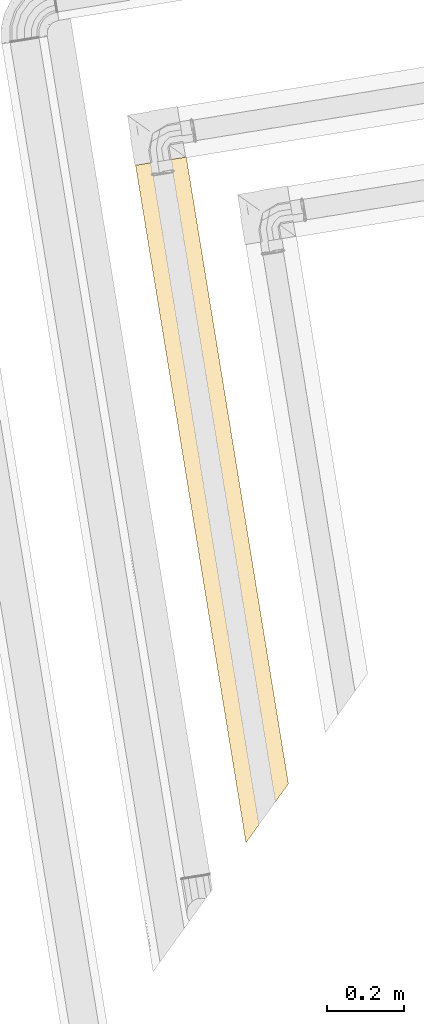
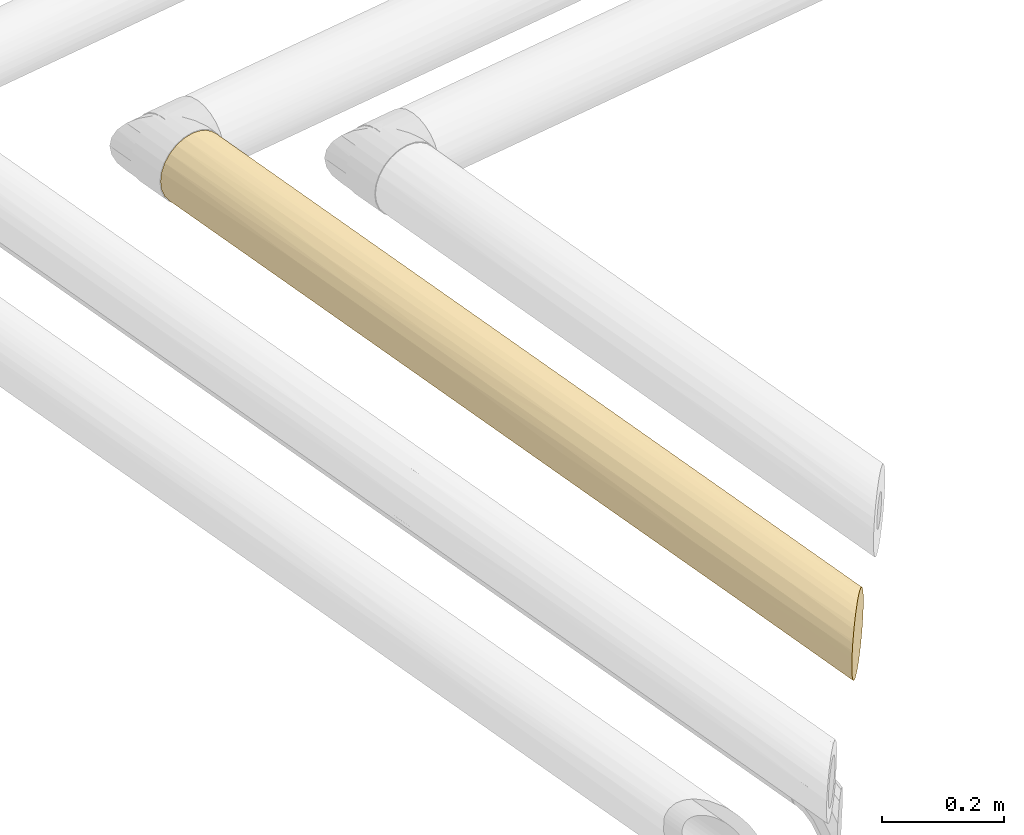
# One storey, part 3 of 46: 1 covering.
"""IFC2X3 building model written with IfcOpenShell, lengths in millimetres."""

from ifc_helpers import new_model, entity, si_unit, converted_unit, derived_unit, direction, frame, origin, origin_with_axes, place, context, subcontext, project, spatial, faceted_brep, type_object, element, save


model = new_model("IFC2X3")

# Units and contexts
model_context = context("Model", 3, precision=0.01, world=origin(), true_north=direction((6.12323399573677e-17, 1.0)))
plan_context = context("Plan", 3, precision=1e-05, world=origin_with_axes())
body_context = subcontext(model_context, "Body", "Model", "MODEL_VIEW")
ifc_project = project(units=[converted_unit("PLANEANGLEUNIT", "DEGREE", entity("IfcPositiveLengthMeasure", 0.0174532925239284), si_unit("PLANEANGLEUNIT", "RADIAN"), dimensions=[0, 0, 0, 0, 0, 0, 0]), si_unit("AREAUNIT", "SQUARE_METRE"), si_unit("LENGTHUNIT", "METRE", prefix="MILLI"), si_unit("MASSUNIT", "GRAM", prefix="KILO"), si_unit("POWERUNIT", "WATT"), si_unit("PRESSUREUNIT", "PASCAL", prefix="KILO"), si_unit("FORCEUNIT", "NEWTON", prefix="KILO"), si_unit("ELECTRICVOLTAGEUNIT", "VOLT"), si_unit("ELECTRICCURRENTUNIT", "AMPERE"), si_unit("THERMODYNAMICTEMPERATUREUNIT", "DEGREE_CELSIUS"), si_unit("TIMEUNIT", "SECOND"), si_unit("VOLUMEUNIT", "CUBIC_METRE"), derived_unit("LINEARVELOCITYUNIT", [(si_unit("LENGTHUNIT", "METRE"), 1), (si_unit("TIMEUNIT", "SECOND"), -1)]), derived_unit("VOLUMETRICFLOWRATEUNIT", [(si_unit("VOLUMEUNIT", "CUBIC_METRE"), 1), (si_unit("TIMEUNIT", "SECOND"), -1)]), derived_unit("THERMALTRANSMITTANCEUNIT", [(si_unit("POWERUNIT", "WATT"), 1), (si_unit("THERMODYNAMICTEMPERATUREUNIT", "KELVIN"), -1), (si_unit("AREAUNIT", "SQUARE_METRE"), -1)]), derived_unit("SOUNDPRESSUREUNIT", [(si_unit("PRESSUREUNIT", "PASCAL"), 1)])], contexts=[model_context, plan_context])

# Site, building, storey
site_placement = place(None, frame((-3.09682673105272e-06, 1.93776733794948e-05, 0.0), z_axis=(0.0, 0.0, 1.0), x_axis=(-0.160806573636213, 0.986985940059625, 0.0)))
site = spatial("IfcSite", under=ifc_project, at=site_placement, Name="Default", CompositionType="ELEMENT")
building_placement = place(site_placement, frame((0.0, 0.0, 0.0), z_axis=(0.0, 0.0, 1.0), x_axis=(1.0, -2.77555756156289e-17, 0.0)))
building = spatial("IfcBuilding", under=site, at=building_placement, Name="Bygning (endres i Project Information)", CompositionType="ELEMENT")
storey_placement = place(building_placement, frame((0.0, 0.0, 51360.0000000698), z_axis=(0.0, 0.0, 1.0), x_axis=(1.0, -2.77555756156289e-17, 0.0)))
storey = spatial("IfcBuildingStorey", under=building, at=storey_placement, Name="H01-Nivå D+0,36", CompositionType="ELEMENT", Elevation=51360.0000000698)

# Covering
covering_type = type_object("IfcCoveringType", Name="Pipe Insulation:GLAVA Rørskål ClimPipe Alu2, isol.kl.4, 45°C", PredefinedType="INSULATION")
covering_placement = place(storey_placement, frame((995851.809536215, -347375.994427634, 3371.40472772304), z_axis=(0.0, 0.0, 1.0), x_axis=(1.0, -2.77555756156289e-17, 0.0)))
element("IfcCovering", 1, at=covering_placement, inside=storey, type_object=covering_type, Name="Pipe Insulation:GLAVA Rørskål ClimPipe Alu2, isol.kl.4, 45°C", ObjectType="Pipe Insulation:GLAVA Rørskål ClimPipe Alu2, isol.kl.4, 45°C", PredefinedType="INSULATION", context=body_context, shape_type="Brep", body=[
    faceted_brep([(3386.5952722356, 102.09527229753, 10.5715701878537), (3386.5952722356, 85.9361483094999, 3.87824187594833), (3386.5952722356, 68.5952722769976, 1.5952722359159), (3386.5952722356, 53.8943445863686, 3.22798129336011), (3386.5952722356, 39.9299875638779, 8.03702380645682), (3386.5952722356, 27.3581172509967, 15.7890505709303), (3386.5952722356, 16.7908010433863, 26.1064882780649), (3386.5952722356, 8.73898999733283, 38.4916931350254), (3386.5952722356, 3.5952722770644, 52.3471952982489), (3386.5952722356, 3.5952722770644, 84.8433492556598), (3386.5952722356, 8.73898999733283, 98.6988514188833), (3386.5952722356, 16.7908010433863, 111.084056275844), (3386.5952722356, 27.3581172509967, 121.401493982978), (3386.5952722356, 39.9299875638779, 129.153520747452), (3386.5952722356, 53.8943445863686, 133.962563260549), (3386.5952722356, 68.5952722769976, 135.595272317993), (3386.5952722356, 85.9361483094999, 133.31230267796), (3386.5952722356, 102.09527229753, 126.618974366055), (3386.5952722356, 115.971426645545, 115.971426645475), (3386.5952722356, 126.618974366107, 102.095272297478), (3386.5952722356, 133.312302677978, 85.9361483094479), (3386.5952722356, 135.595272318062, 68.5952722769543), (3386.5952722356, 133.312302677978, 51.2543962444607), (3386.5952722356, 126.618974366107, 35.0952722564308), (3386.5952722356, 115.971426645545, 21.2191179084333), (2967.30542239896, 21.7893065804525, 20.655710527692), (2698.41801005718, 33.4297886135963, 11.56555402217), (2576.22324760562, 21.7888473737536, 20.6561588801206), (2161.61424136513, 36.624151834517, 9.71533118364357), (2090.06870129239, 21.7893066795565, 20.6557104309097), (2333.50357063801, 14.3584450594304, 29.2586916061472), (2037.23492599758, 9.50813099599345, 37.008728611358), (1716.44828380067, 16.9452031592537, 26.1188155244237), (1719.63423736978, 13.7592495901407, 30.408339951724), (1702.74403695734, 30.6494500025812, 13.4279736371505), (1688.0453491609, 45.3481377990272, 5.9960677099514), (1690.23387663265, 43.1596103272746, 6.61565825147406), (1721.65365951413, 42.9368548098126, 6.70306260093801), (1678.18609416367, 55.2073927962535, 2.98290217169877), (1957.55362606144, 52.283407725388, 3.61125054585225), (2456.96570612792, 50.0582960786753, 4.21064275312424), (2243.36215004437, 68.5952722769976, 1.5952722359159), (2814.97847591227, 68.5952722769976, 1.5952722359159), (2707.62573533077, 81.439847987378, 2.83801503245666), (2294.20468560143, 85.2173961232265, 3.68991807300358), (1957.55340221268, 68.5952722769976, 1.5952722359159), (1814.6494628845, 82.1321780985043, 2.97704168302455), (1815.68088792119, 96.1547390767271, 7.52583806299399), (2315.89565278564, 98.1172879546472, 8.45002644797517), (1959.13548913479, 112.084639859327, 17.6278815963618), (1625.13512215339, 108.258364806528, 14.6713304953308), (1630.70774812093, 102.685738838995, 11.2360863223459), (1636.60219877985, 96.7912881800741, 7.82606034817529), (1641.55992627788, 91.8335606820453, 6.00013025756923), (1664.36176197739, 69.0317249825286, 1.65120302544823), (1664.79821468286, 68.5952722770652, 1.5952722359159), (1671.74535372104, 68.5952722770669, 1.5952722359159), (1649.97159625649, 83.421890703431, 3.2778983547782), (1665.32913207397, 68.0643548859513, 1.64249342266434), (1603.33870268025, 130.054784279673, 95.1604787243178), (1602.060954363, 131.332532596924, 91.699100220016), (1666.53687624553, 130.487481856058, 94.2536899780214), (1599.43453642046, 133.958950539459, 83.1404257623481), (1859.34940572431, 134.543546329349, 80.4200409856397), (2002.25357008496, 131.421387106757, 91.8735733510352), (2349.4399987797, 133.277811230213, 86.0643638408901), (2353.63410196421, 128.700798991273, 98.1980705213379), (2201.50107976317, 122.767843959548, 108.020295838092), (2563.40101324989, 122.613039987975, 108.232133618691), (2340.14064570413, 109.382288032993, 121.749946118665), (2717.46849676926, 115.366855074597, 116.568379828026), (2669.10822605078, 105.657237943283, 124.411136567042), (2998.07580633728, 109.382288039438, 121.749946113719), (2923.55654294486, 121.749946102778, 109.382288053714), (3057.11655857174, 130.495200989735, 94.2350622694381), (2660.85783702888, 130.495200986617, 94.2350622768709), (2707.92656125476, 134.391970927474, 81.2362553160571), (3051.56022400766, 134.563727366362, 80.3069305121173), (2837.3271174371, 135.595272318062, 68.5952722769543), (2288.06133099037, 135.595272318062, 68.5952722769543), (2002.25479695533, 135.595272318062, 68.5952722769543), (1716.44304003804, 135.595272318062, 68.5952722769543), (2002.25356910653, 133.430270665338, 51.7008060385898), (2417.73573069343, 133.157647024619, 50.6871799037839), (2731.64374773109, 134.359405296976, 55.78594701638), (2779.86121326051, 130.495201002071, 42.9554823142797), (2478.77152619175, 127.958931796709, 37.5315324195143), (2144.7849756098, 128.705297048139, 39.0016086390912), (2307.91633961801, 121.749946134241, 27.8082565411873), (1878.01350802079, 123.536816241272, 30.2491283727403), (1603.78120664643, 129.612280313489, 40.9246483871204), (1604.36780095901, 129.025686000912, 39.9109635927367), (1603.45760384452, 129.935883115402, 41.8038441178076), (1599.2269105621, 134.166576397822, 54.8572020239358), (1597.79821464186, 135.595272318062, 68.5952722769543), (1598.93444663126, 134.459040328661, 57.4638454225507), (1612.2095512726, 121.183935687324, 27.2041046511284), (1616.4748176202, 116.918669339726, 22.4619110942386), (2445.35840805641, 109.002067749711, 15.150993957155), (2652.53098451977, 121.561241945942, 27.5635033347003), (2917.91956524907, 109.382288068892, 15.4405984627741), (2997.14562942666, 121.749946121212, 27.8082565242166), (3083.05092271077, 128.677132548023, 38.9444700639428), (3046.9241773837, 133.207859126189, 50.8692003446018), (3100.78731093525, 135.595272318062, 68.5952722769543), (3048.69552502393, 94.2350622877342, 6.69534357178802), (2645.40779768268, 94.2350623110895, 6.69534358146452), (3047.53978088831, 80.0627785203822, 2.58393759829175), (2967.30398488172, 46.7792503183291, 5.24654544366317), (3067.57479699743, 33.429788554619, 11.5655540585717), (3067.58132645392, 12.4225094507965, 32.0765000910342), (2698.41316288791, 12.4225095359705, 32.0764999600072), (2967.24892294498, 5.78391558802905, 45.2771789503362), (2955.88277967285, 2.53456717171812, 57.4156816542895), (3385.09715193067, 2.09715197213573, 60.4099194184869), (3098.78694232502, 1.59527223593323, 68.5952722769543), (2812.97861245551, 1.59527223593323, 68.5952722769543), (3384.59527219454, 1.59527223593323, 68.5952722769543), (3029.19221384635, 2.63723038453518, 80.3654343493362), (2713.20020122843, 2.65726421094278, 80.4771533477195), (2241.36195271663, 1.59527223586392, 68.5952722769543), (2389.67064730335, 3.81609963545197, 85.7025455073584), (2818.36876830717, 5.7839154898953, 91.9133653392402), (2456.25071995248, 10.7242945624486, 102.358417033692), (1955.55363261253, 7.30334492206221, 95.6563078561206), (2039.15589280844, 15.2275183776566, 109.103084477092), (1721.46112443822, 11.9323625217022, 103.935474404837), (1719.61174856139, 13.7817383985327, 107.105752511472), (1729.07472591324, 4.31876104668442, 87.3538011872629), (1729.3626115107, 4.03087544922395, 86.4490488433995), (2020.65595624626, 2.7880808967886, 81.1815174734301), (1731.58800020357, 1.80548675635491, 70.8134079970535), (1727.31455577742, 6.07893118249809, 44.5010615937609), (1727.595028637, 5.79845832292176, 45.4969984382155), (1740.30494167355, 6.10710169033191, 44.4244522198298), (1730.42460008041, 2.96888687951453, 55.1418638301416), (2009.7261233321, 3.30526869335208, 53.5548122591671), (2439.43847084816, 4.52398136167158, 49.0026796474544), (1731.48767002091, 1.90581693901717, 65.8638425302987), (1731.798214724, 1.5952722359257, 68.5952722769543), (1726.38270106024, 7.01078589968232, 42.8137018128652), (1707.26161140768, 26.131875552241, 120.328162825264), (1705.63298044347, 27.7605065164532, 121.68589670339), (1778.07714221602, 27.09746653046, 121.196908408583), (1702.70880894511, 30.6846780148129, 123.330534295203), (1690.79805223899, 42.5954347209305, 130.342621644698), (2004.25356849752, 43.1585994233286, 130.578944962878), (1681.78471155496, 51.6087754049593, 133.277643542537), (1719.07905669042, 53.2019215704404, 133.802977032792), (2099.39854041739, 56.4475731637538, 134.484826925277), (1718.44195158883, 68.5952722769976, 135.595272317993), (1679.90822224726, 53.4852647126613, 133.863751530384), (1666.57305904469, 66.8204279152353, 135.425475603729), (1664.79821468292, 68.5952722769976, 135.595272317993), (1611.01976879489, 122.373718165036, 108.243623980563), (1608.6477699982, 124.745716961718, 105.05569563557), (1702.28460187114, 124.076780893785, 106.155919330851), (1621.58840488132, 111.805082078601, 119.595081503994), (1791.03106200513, 109.32747913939, 121.791957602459), (1627.46523855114, 105.928248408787, 123.981303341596), (1640.4414812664, 92.9520056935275, 130.998178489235), (1647.8855820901, 92.7660918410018, 131.083443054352), (2004.25356793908, 90.6644513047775, 131.856250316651), (1783.34526837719, 81.3351115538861, 134.372901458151), (2221.42829869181, 81.2611717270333, 134.387179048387), (2401.43989330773, 91.7334831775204, 131.473115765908), (2693.14480517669, 81.3429339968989, 134.371385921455), (2290.06223740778, 68.5952722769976, 135.595272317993), (2838.32639179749, 68.5952722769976, 135.595272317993), (2564.19248529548, 68.5952722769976, 135.595272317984), (2352.43721366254, 46.5382150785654, 131.86047782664), (2712.19318215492, 46.7792502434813, 131.943999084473), (2476.44312137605, 34.360768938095, 126.188664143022), (2127.36888448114, 30.6356885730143, 123.804601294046), (2354.01999444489, 21.7893064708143, 116.534833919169), (2887.01256492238, 21.78930647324, 116.534833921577), (2821.19260473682, 12.4843013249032, 105.208916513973), (3385.09715193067, 2.09715197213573, 76.7806251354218), (2893.5828770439, 34.1827513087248, 126.082474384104), (3074.97257184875, 46.7792502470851, 131.943999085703), (3045.81340766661, 80.6065467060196, 134.509832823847), (3131.13156584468, 94.2350622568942, 130.495200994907), (2793.89803122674, 94.2350622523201, 130.495200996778), (1662.3151910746, 71.0782958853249, 135.312969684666), (1651.30811180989, 82.0853751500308, 134.213880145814), (1640.86530390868, 92.5281830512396, 131.156450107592), (1712.97558095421, 20.4179060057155, 114.074988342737), (1598.62923280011, 134.764254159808, 75.3192809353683), (1698.24917283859, 35.1443141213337, 10.9002298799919), (1702.16778635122, 31.2257006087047, 12.9975897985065)], [[[0, 1, 2, 3, 4, 5, 6, 7, 8, 9, 10, 11, 12, 13, 14, 15, 16, 17, 18, 19, 20, 21, 22, 23, 24]], [[25, 26, 27]], [[27, 26, 28]], [[29, 27, 28]], [[30, 27, 29]], [[31, 30, 29]], [[32, 33, 31, 29]], [[34, 32, 29]], [[35, 36, 37]], [[38, 35, 37, 39]], [[39, 37, 28]], [[40, 39, 28]], [[40, 41, 39]], [[42, 41, 40]], [[43, 41, 42]], [[41, 43, 44]], [[45, 41, 44]], [[44, 46, 45]], [[47, 46, 44]], [[48, 47, 44]], [[47, 48, 49]], [[50, 51, 47, 49]], [[51, 52, 47]], [[52, 53, 47]], [[54, 55, 56]], [[57, 54, 56, 46]], [[55, 58, 56]], [[59, 60, 61]], [[60, 62, 63, 61]], [[64, 61, 63]], [[64, 63, 65]], [[65, 66, 64]], [[66, 67, 64]], [[67, 66, 68]], [[67, 68, 69]], [[68, 70, 69]], [[71, 69, 70]], [[71, 70, 72]], [[70, 73, 72]], [[72, 73, 18]], [[18, 73, 19]], [[73, 74, 19]], [[75, 74, 73]], [[73, 68, 75]], [[75, 76, 74]], [[76, 77, 74]], [[76, 78, 77]], [[76, 79, 78]], [[65, 79, 76]], [[65, 80, 79]], [[79, 80, 81, 82]], [[63, 81, 80]], [[83, 79, 82]], [[83, 84, 79]], [[85, 84, 83]], [[86, 85, 83]], [[87, 86, 83]], [[87, 88, 86]], [[88, 87, 89]], [[90, 91, 89, 87]], [[92, 90, 87, 82]], [[93, 92, 82]], [[94, 95, 81]], [[91, 96, 89]], [[96, 97, 49, 89]], [[49, 88, 89]], [[49, 98, 88]], [[99, 88, 98]], [[99, 98, 100]], [[101, 99, 100]], [[101, 85, 99]], [[102, 85, 101]], [[102, 101, 23]], [[23, 22, 102]], [[103, 102, 22]], [[103, 22, 104]], [[21, 104, 22]], [[78, 103, 104]], [[78, 84, 103]], [[23, 101, 24]], [[85, 102, 103]], [[100, 24, 101]], [[24, 100, 0]], [[100, 105, 0]], [[106, 105, 100]], [[106, 43, 105]], [[43, 107, 105]], [[1, 105, 107]], [[1, 107, 2]], [[107, 42, 2]], [[42, 3, 2]], [[108, 3, 42]], [[3, 108, 4]], [[108, 109, 4]], [[26, 109, 108]], [[40, 26, 108]], [[5, 4, 109]], [[5, 109, 25]], [[6, 5, 25]], [[6, 25, 110]], [[111, 110, 25]], [[111, 112, 110]], [[7, 110, 112]], [[8, 7, 112]], [[112, 113, 8]], [[8, 113, 114]], [[113, 115, 114]], [[116, 115, 113]], [[117, 115, 116, 118]], [[118, 116, 119]], [[116, 120, 119]], [[121, 119, 120]], [[119, 121, 122]], [[123, 122, 121]], [[123, 121, 124]], [[125, 123, 124]], [[126, 127, 125, 124]], [[128, 126, 124]], [[129, 128, 124, 130]], [[131, 129, 130]], [[132, 133, 134]], [[133, 135, 136, 134]], [[134, 136, 31]], [[137, 31, 136]], [[137, 136, 120]], [[138, 139, 120, 136]], [[140, 132, 134]], [[135, 138, 136]], [[141, 142, 143]], [[142, 144, 143]], [[144, 145, 146, 143]], [[145, 147, 148, 146]], [[148, 149, 146]], [[148, 150, 149]], [[151, 152, 150, 148]], [[152, 153, 150]], [[154, 155, 156]], [[157, 154, 156, 158]], [[67, 158, 156]], [[159, 157, 158]], [[160, 159, 158, 161]], [[162, 161, 158]], [[162, 163, 161]], [[162, 164, 163]], [[162, 165, 164]], [[162, 69, 165]], [[165, 166, 164]], [[167, 164, 166]], [[168, 169, 167, 166]], [[170, 167, 169]], [[170, 149, 167]], [[169, 171, 170]], [[171, 172, 170]], [[170, 172, 173]], [[173, 172, 174]], [[173, 174, 125]], [[143, 173, 125]], [[175, 174, 172]], [[175, 176, 174]], [[176, 123, 174]], [[175, 11, 176]], [[176, 11, 10]], [[122, 176, 10]], [[10, 9, 122]], [[122, 9, 118]], [[177, 118, 9]], [[12, 11, 175]], [[175, 178, 12]], [[12, 178, 13]], [[178, 179, 13]], [[171, 179, 178]], [[13, 179, 14]], [[14, 179, 168]], [[168, 15, 14]], [[168, 180, 15]], [[15, 180, 16]], [[180, 181, 16]], [[181, 180, 182]], [[180, 166, 182]], [[182, 72, 181]], [[17, 181, 72]], [[16, 181, 17]], [[172, 178, 175]], [[170, 173, 146]], [[172, 171, 178]], [[179, 171, 169, 168]], [[180, 168, 166]], [[167, 150, 164]], [[182, 166, 165]], [[71, 182, 165]], [[163, 164, 150]], [[183, 184, 163, 150]], [[184, 185, 161, 163]], [[158, 69, 162]], [[185, 160, 161]], [[153, 183, 150]], [[149, 150, 167]], [[170, 146, 149]], [[147, 151, 148]], [[143, 146, 173]], [[186, 141, 143]], [[139, 131, 130, 120]], [[127, 186, 143, 125]], [[123, 125, 174]], [[130, 124, 121]], [[122, 123, 176]], [[120, 130, 121]], [[120, 116, 137]], [[118, 119, 122]], [[117, 118, 177]], [[116, 113, 137]], [[115, 117, 114]], [[137, 113, 112]], [[112, 111, 137]], [[111, 30, 137]], [[6, 110, 7]], [[105, 1, 0]], [[106, 100, 98]], [[98, 48, 106]], [[99, 86, 88]], [[86, 99, 85]], [[103, 84, 85]], [[83, 82, 87]], [[95, 93, 82, 81]], [[78, 79, 84]], [[78, 104, 21, 77]], [[20, 77, 21]], [[20, 74, 77]], [[76, 75, 65]], [[20, 19, 74]], [[17, 72, 18]], [[182, 71, 72]], [[69, 71, 165]], [[70, 68, 73]], [[67, 69, 158]], [[68, 66, 75]], [[156, 64, 67]], [[75, 66, 65]], [[65, 63, 80]], [[64, 156, 61]], [[62, 187, 81, 63]], [[155, 59, 61, 156]], [[187, 94, 81]], [[97, 50, 49]], [[49, 48, 98]], [[44, 106, 48]], [[53, 57, 46, 47]], [[56, 45, 46]], [[44, 43, 106]], [[43, 42, 107]], [[108, 42, 40]], [[41, 45, 56, 39]], [[188, 189, 28, 37]], [[58, 38, 39, 56]], [[36, 188, 37]], [[33, 140, 134, 31]], [[30, 31, 137]], [[111, 27, 30]], [[189, 34, 29, 28]], [[40, 28, 26]], [[111, 25, 27]], [[109, 26, 25]], [[177, 9, 8, 114, 117]], [[34, 189, 188, 36, 35, 38, 58, 55, 54, 57, 53, 52, 51, 50, 97, 96, 91, 90, 92, 93, 95, 94, 187, 62, 60, 59, 155, 154, 157, 159, 160, 185, 184, 183, 153, 152, 151, 147, 145, 144, 142, 141, 186, 127, 126, 128, 129, 131, 139, 138, 135, 133, 132, 140, 33, 32]]], orient=[[False], [False], [False], [False], [False], [False], [False], [False], [False], [False], [False], [False], [False], [False], [False], [False], [False], [False], [False], [False], [False], [False], [False], [False], [False], [False], [False], [False], [False], [False], [False], [False], [False], [False], [False], [False], [False], [False], [False], [False], [False], [False], [False], [False], [False], [False], [False], [False], [False], [False], [False], [False], [False], [False], [False], [False], [False], [False], [False], [False], [False], [False], [False], [False], [False], [False], [False], [False], [False], [False], [False], [False], [False], [False], [False], [False], [False], [False], [False], [False], [False], [False], [False], [False], [False], [False], [False], [False], [False], [False], [False], [False], [False], [False], [False], [False], [False], [False], [False], [False], [False], [False], [False], [False], [False], [False], [False], [False], [False], [False], [False], [False], [False], [False], [False], [False], [False], [False], [False], [False], [False], [False], [False], [False], [False], [False], [False], [False], [False], [False], [False], [False], [False], [False], [False], [False], [False], [False], [False], [False], [False], [False], [False], [False], [False], [False], [False], [False], [False], [False], [False], [False], [False], [False], [False], [False], [False], [False], [False], [False], [False], [False], [False], [False], [False], [False], [False], [False], [False], [False], [False], [False], [False], [False], [False], [False], [False], [False], [False], [False], [False], [False], [False], [False], [False], [False], [False], [False], [False], [False], [False], [False], [False], [False], [False], [False], [False], [False], [False], [False], [False], [False], [False], [False], [False], [False], [False], [False], [False], [False], [False], [False], [False], [False], [False], [False], [False], [False], [False], [False], [False], [False], [False], [False], [False], [False], [False], [False], [False], [False], [False], [False], [False], [False], [False], [False], [False], [False], [False], [False], [False], [False], [False], [False], [False], [False], [False], [False], [False], [False], [False], [False], [False], [False], [False], [False], [False], [False], [False], [False], [False], [False], [False], [False]]),
])

save(model, "model.ifc")
